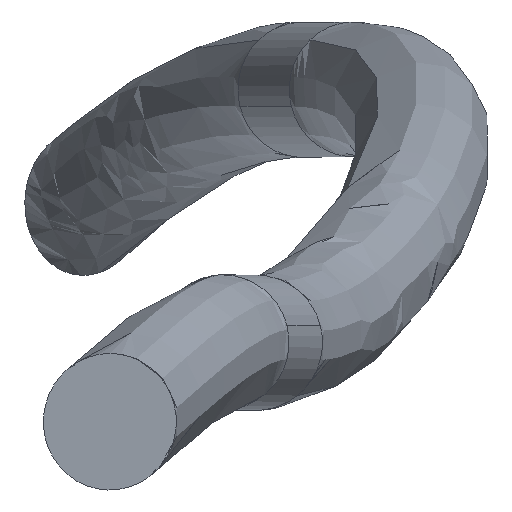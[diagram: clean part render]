
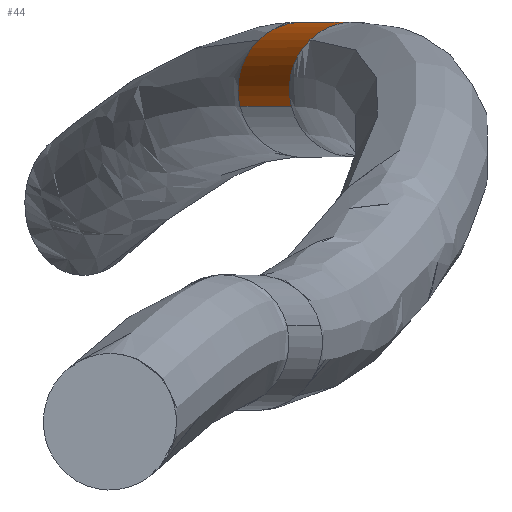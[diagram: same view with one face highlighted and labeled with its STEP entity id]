
A CAD part, top view. The second image highlights one B-rep face of the part: STEP entity #44.
In plain terms, the highlighted cylindrical face has radius 25 mm (diameter 50 mm), a partial arc.
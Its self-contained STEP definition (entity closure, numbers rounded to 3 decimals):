
#44 = ADVANCED_FACE ( 'NONE', ( #2395 ), #1276, .T. ) ;
#93 = CARTESIAN_POINT ( 'NONE',  ( 388.102, -263.004, 1008.417 ) ) ;
#100 = AXIS2_PLACEMENT_3D ( 'NONE', #1729, #2204, #869 ) ;
#103 = CARTESIAN_POINT ( 'NONE',  ( 341.783, -275.415, 1022.578 ) ) ;
#127 = LINE ( 'NONE', #585, #486 ) ;
#140 = CARTESIAN_POINT ( 'NONE',  ( 364.943, -269.21, 1015.498 ) ) ;
#152 = ORIENTED_EDGE ( 'NONE', *, *, #1630, .T. ) ;
#197 = AXIS2_PLACEMENT_3D ( 'NONE', #881, #2430, #2854 ) ;
#334 = ORIENTED_EDGE ( 'NONE', *, *, #2775, .T. ) ;
#338 = LINE ( 'NONE', #103, #1727 ) ;
#486 = VECTOR ( 'NONE', #1021, 1000. ) ;
#532 = CIRCLE ( 'NONE', #1362, 25. ) ;
#539 = CARTESIAN_POINT ( 'NONE',  ( 341.783, -275.415, 1022.578 ) ) ;
#585 = CARTESIAN_POINT ( 'NONE',  ( 388.102, -263.004, 1008.417 ) ) ;
#609 = VERTEX_POINT ( 'NONE', #963 ) ;
#820 = DIRECTION ( 'NONE',  ( 0.292, 0., 0.956 ) ) ;
#869 = DIRECTION ( 'NONE',  ( -0.649, 0.734, 0.199 ) ) ;
#876 = EDGE_CURVE ( 'NONE', #2650, #2382, #127, .T. ) ;
#881 = CARTESIAN_POINT ( 'NONE',  ( 364.943, -269.21, 1015.498 ) ) ;
#954 = CIRCLE ( 'NONE', #1260, 25. ) ;
#963 = CARTESIAN_POINT ( 'NONE',  ( 360.787, -275.415, 1084.738 ) ) ;
#1021 = DIRECTION ( 'NONE',  ( 0.292, 0., 0.956 ) ) ;
#1025 = EDGE_CURVE ( 'NONE', #2566, #609, #1780, .T. ) ;
#1225 = DIRECTION ( 'NONE',  ( -0.649, 0.734, 0.199 ) ) ;
#1260 = AXIS2_PLACEMENT_3D ( 'NONE', #140, #820, #2327 ) ;
#1276 = CYLINDRICAL_SURFACE ( 'NONE', #197, 25. ) ;
#1362 = AXIS2_PLACEMENT_3D ( 'NONE', #2328, #2357, #2315 ) ;
#1381 = EDGE_CURVE ( 'NONE', #2632, #2413, #954, .T. ) ;
#1630 = EDGE_CURVE ( 'NONE', #2650, #2632, #2002, .T. ) ;
#1638 = CARTESIAN_POINT ( 'NONE',  ( 348.709, -250.856, 1020.461 ) ) ;
#1725 = AXIS2_PLACEMENT_3D ( 'NONE', #2794, #2137, #1225 ) ;
#1727 = VECTOR ( 'NONE', #2471, 1000. ) ;
#1729 = CARTESIAN_POINT ( 'NONE',  ( 364.943, -269.21, 1015.498 ) ) ;
#1743 = ORIENTED_EDGE ( 'NONE', *, *, #1025, .F. ) ;
#1762 = EDGE_LOOP ( 'NONE', ( #2773, #334, #1743, #2396, #2335, #152 ) ) ;
#1780 = CIRCLE ( 'NONE', #1725, 25. ) ;
#2002 = CIRCLE ( 'NONE', #100, 25. ) ;
#2137 = DIRECTION ( 'NONE',  ( 0.292, 0., 0.956 ) ) ;
#2204 = DIRECTION ( 'NONE',  ( 0.292, 0., 0.956 ) ) ;
#2315 = DIRECTION ( 'NONE',  ( -0.649, 0.734, 0.199 ) ) ;
#2327 = DIRECTION ( 'NONE',  ( -0.649, 0.734, 0.199 ) ) ;
#2328 = CARTESIAN_POINT ( 'NONE',  ( 383.947, -269.21, 1077.657 ) ) ;
#2335 = ORIENTED_EDGE ( 'NONE', *, *, #876, .F. ) ;
#2357 = DIRECTION ( 'NONE',  ( 0.292, 0., 0.956 ) ) ;
#2382 = VERTEX_POINT ( 'NONE', #2770 ) ;
#2395 = FACE_OUTER_BOUND ( 'NONE', #1762, .T. ) ;
#2396 = ORIENTED_EDGE ( 'NONE', *, *, #2562, .F. ) ;
#2413 = VERTEX_POINT ( 'NONE', #539 ) ;
#2430 = DIRECTION ( 'NONE',  ( 0.292, 0., 0.956 ) ) ;
#2471 = DIRECTION ( 'NONE',  ( 0.292, 0., 0.956 ) ) ;
#2546 = CARTESIAN_POINT ( 'NONE',  ( 367.714, -250.856, 1082.62 ) ) ;
#2562 = EDGE_CURVE ( 'NONE', #2382, #2566, #532, .T. ) ;
#2566 = VERTEX_POINT ( 'NONE', #2546 ) ;
#2632 = VERTEX_POINT ( 'NONE', #1638 ) ;
#2650 = VERTEX_POINT ( 'NONE', #93 ) ;
#2770 = CARTESIAN_POINT ( 'NONE',  ( 407.106, -263.004, 1070.577 ) ) ;
#2773 = ORIENTED_EDGE ( 'NONE', *, *, #1381, .T. ) ;
#2775 = EDGE_CURVE ( 'NONE', #2413, #609, #338, .T. ) ;
#2794 = CARTESIAN_POINT ( 'NONE',  ( 383.947, -269.21, 1077.657 ) ) ;
#2854 = DIRECTION ( 'NONE',  ( 0.926, 0.248, -0.283 ) ) ;
